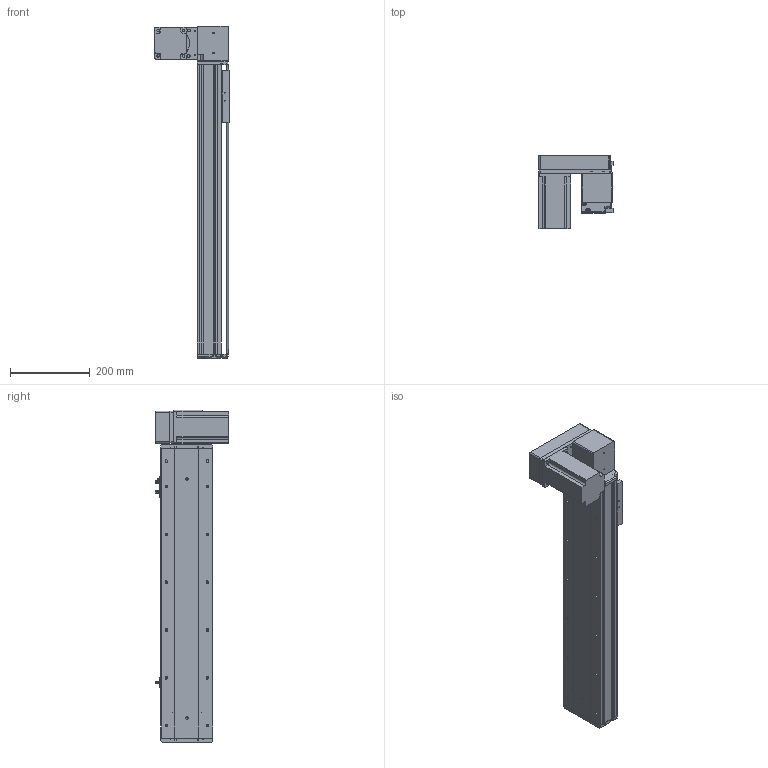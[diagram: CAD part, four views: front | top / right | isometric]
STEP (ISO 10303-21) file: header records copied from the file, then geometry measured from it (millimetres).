
FILE_DESCRIPTION (( 'STEP AP214' ), '1' );
FILE_NAME ('KSD130B-S500-MRD-CM.STEP', '2019-09-21T09:43:38', ( '微软用户' ), ( '微软中国' ), 'SwSTEP 2.0', 'SolidWorks 2014', '' );
FILE_SCHEMA (( 'AUTOMOTIVE_DESIGN' ));
Length unit declared in the file: millimetre
Products named in the file (12): 130宽模组马达安装板连板上下折丝杆同步带; 覜茼え100遵圉猾敕; U倰嫖萇EEㄜSX672; 130宽盖板半封闭同步带-500行程; 130宽马达安装板同步带右-改镜向_默认<按加工>; 130宽马达安装板同步带半封闭; 130宽同步带安装座半封闭; 130宽端盖同步带半封闭; 130宽底板半封闭同步带-500行程; KSD130B-S500-MRD-CM; 130宽模组保护罩上下左右折-同步带; 台达ECMA－C20807AS伺服电机
Assembly tree (13 placements, depth 2):
  KSD130B-S500-MRD-CM
    130宽底板半封闭同步带-500行程
    130宽端盖同步带半封闭
    130宽同步带安装座半封闭
    130宽马达安装板同步带半封闭
    130宽马达安装板同步带右-改镜向_默认<按加工>
    130宽盖板半封闭同步带-500行程
    U倰嫖萇EEㄜSX672  x3
    覜茼え100遵圉猾敕
    130宽模组马达安装板连板上下折丝杆同步带
    台达ECMA－C20807AS伺服电机
    130宽模组保护罩上下左右折-同步带
Bounding box: 186 x 184.8 x 833 mm (x, y, z)
Volume: 3616272 mm3; surface area: 942806.1 mm2
Topology: 14 solids, 14 shells, 1419 faces, 4005 edges, 2571 vertices
Faces by surface type: cylinder 666, plane 610, cone 143
Entity records: 45575 total; most frequent: CARTESIAN_POINT 8208, DIRECTION 6991, ORIENTED_EDGE 6710, EDGE_CURVE 3355, AXIS2_PLACEMENT_3D 2534, VERTEX_POINT 2195, LINE 1923, VECTOR 1923
